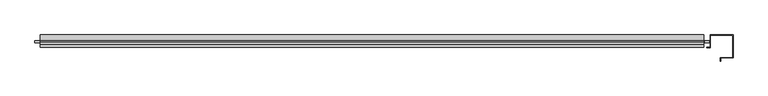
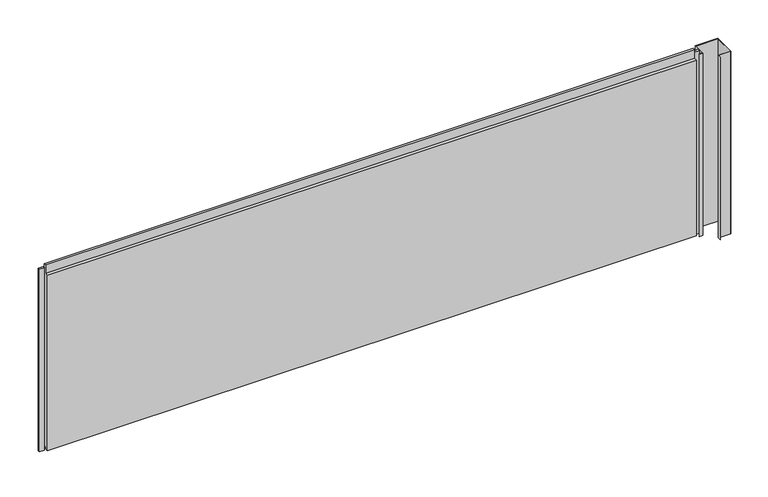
"""IFC4 building model written with IfcOpenShell, lengths in millimetres: plate geometry, Trimo_Qbiss Screen_Normal Panel-HORIZONTAL : HR - B."""

import ifcopenshell
import ifcopenshell.guid

model = None  # the IFC model being written
_history = None  # IfcOwnerHistory: only IFC2X3 demands one
_inside = {}  # id of a spatial element -> (the spatial element, [elements in it])
_under = {}  # id of a project, library or spatial element -> (it, [spatial elements below it])
_declared = {}  # id of a project -> (the project, [libraries it declares])
_typed = {}  # id of a type object -> (the type object, [elements of that type])
_made_of = {}  # id of a material, layer set ... -> (it, [elements and type objects made of it])


def new_model(schema):
    """Start an empty IFC model of exactly this schema.

    Asked for "IFC4X3", IfcOpenShell would pick the latest addendum, in which some entities
    have other attributes; the version numbers below select the first issue.
    IFC2X3 requires an IfcOwnerHistory on every rooted entity: one is made here for all.
    """
    global model, _history
    if schema == "IFC4X3":
        model = ifcopenshell.file(schema_version=(4, 3, 0, 0))
    else:
        model = ifcopenshell.file(schema=schema)
    _inside.clear()
    _under.clear()
    _declared.clear()
    _typed.clear()
    _made_of.clear()
    _history = None
    if model.schema == "IFC2X3":
        org = make("IfcOrganization", Name="unknown")
        user = make(
            "IfcPersonAndOrganization",
            ThePerson=make("IfcPerson", FamilyName="unknown"),
            TheOrganization=org,
        )
        app = make(
            "IfcApplication",
            ApplicationDeveloper=org,
            Version="unknown",
            ApplicationFullName="unknown",
            ApplicationIdentifier="unknown",
        )
        _history = make(
            "IfcOwnerHistory",
            OwningUser=user,
            OwningApplication=app,
            ChangeAction="ADDED",
            CreationDate=0,
        )
    return model


def make(cls, **values):
    """One entity of the class cls with the attributes given. An attribute that is None is left unset."""
    return model.create_entity(
        cls, **{name: value for name, value in values.items() if value is not None}
    )


def rooted(cls, **values):
    """An entity with a GlobalId (a new one), such as an element, a storey or a relation."""
    return make(cls, GlobalId=ifcopenshell.guid.new(), OwnerHistory=_history, **values)


def si_unit(unit_type, name, prefix=None):
    """IfcSIUnit, for example si_unit("LENGTHUNIT", "METRE", prefix="MILLI")."""
    return make("IfcSIUnit", UnitType=unit_type, Prefix=prefix, Name=name)


def assignment(units):
    """IfcUnitAssignment: the units of a project."""
    return None if units is None else make("IfcUnitAssignment", Units=units)


def point(xyz):
    """IfcCartesianPoint."""
    return None if xyz is None else make("IfcCartesianPoint", Coordinates=xyz)


def direction(xyz):
    """IfcDirection."""
    return None if xyz is None else make("IfcDirection", DirectionRatios=xyz)


def frame(location, z_axis=None, x_axis=None):
    """IfcAxis2Placement3D, a coordinate frame: its origin and axes. An axis left out is left unset."""
    return make(
        "IfcAxis2Placement3D",
        Location=point(location),
        Axis=direction(z_axis),
        RefDirection=direction(x_axis),
    )


def origin():
    """The frame at (0, 0, 0) with its axes left unset."""
    return frame((0.0, 0.0, 0.0))


def place(relative_to, where):
    """IfcLocalPlacement: puts the frame where relative to a parent placement (None: the world)."""
    return make(
        "IfcLocalPlacement", PlacementRelTo=relative_to, RelativePlacement=where
    )


def context(
    kind, dimensions, precision=None, world=None, true_north=None, identifier=None
):
    """IfcGeometricRepresentationContext, for example the 3D "Model" context."""
    return make(
        "IfcGeometricRepresentationContext",
        ContextIdentifier=identifier,
        ContextType=kind,
        CoordinateSpaceDimension=dimensions,
        Precision=precision,
        WorldCoordinateSystem=world,
        TrueNorth=true_north,
    )


def project(units=None, contexts=None):
    """IfcProject with its units and contexts."""
    return rooted(
        "IfcProject",
        Name="project",
        RepresentationContexts=contexts,
        UnitsInContext=assignment(units),
    )


def spatial(cls, under=None, at=None, **own):
    """A site, building, storey or space (cls), placed at a placement, below another one or the project."""
    s = rooted(cls, ObjectPlacement=at, **own)
    if under is not None:
        _under.setdefault(under.id(), (under, []))[1].append(s)
    return s


def polyline(points):
    """IfcPolyline through the points."""
    return make("IfcPolyline", Points=[point(p) for p in points])


def outline(outer, holes=None, kind="AREA"):
    """IfcArbitraryClosedProfileDef: a profile drawn as a closed curve; with holes, ...WithVoids."""
    if holes is None:
        return make("IfcArbitraryClosedProfileDef", ProfileType=kind, OuterCurve=outer)
    return make(
        "IfcArbitraryProfileDefWithVoids",
        ProfileType=kind,
        OuterCurve=outer,
        InnerCurves=holes,
    )


def extrude(swept, where, along, depth):
    """IfcExtrudedAreaSolid: the profile swept, set in the frame where, extruded along a direction by depth."""
    return make(
        "IfcExtrudedAreaSolid",
        SweptArea=swept,
        Position=where,
        ExtrudedDirection=direction(along),
        Depth=depth,
    )


def shape(context_of_items, identifier, shape_type, items):
    """IfcShapeRepresentation: the items that make up one representation, for example the "Body"."""
    return make(
        "IfcShapeRepresentation",
        ContextOfItems=context_of_items,
        RepresentationIdentifier=identifier,
        RepresentationType=shape_type,
        Items=items,
    )


def source(mapping_origin, context_of_items, identifier, shape_type, items):
    """IfcRepresentationMap: a shape defined once, which mapped items show again and again."""
    return make(
        "IfcRepresentationMap",
        MappingOrigin=mapping_origin,
        MappedRepresentation=shape(context_of_items, identifier, shape_type, items),
    )


def transform(
    local_origin,
    x_axis=None,
    y_axis=None,
    z_axis=None,
    scale=None,
    scale2=None,
    scale3=None,
    uniform=True,
):
    """IfcCartesianTransformationOperator3D, or its non-uniform kind. x_axis, y_axis, z_axis: its Axis1, 2, 3."""
    if uniform:
        return make(
            "IfcCartesianTransformationOperator3D",
            Axis1=direction(x_axis),
            Axis2=direction(y_axis),
            LocalOrigin=point(local_origin),
            Scale=scale,
            Axis3=direction(z_axis),
        )
    return make(
        "IfcCartesianTransformationOperator3DnonUniform",
        Axis1=direction(x_axis),
        Axis2=direction(y_axis),
        LocalOrigin=point(local_origin),
        Scale=scale,
        Axis3=direction(z_axis),
        Scale2=scale2,
        Scale3=scale3,
    )


def mapped(mapping_source, mapping_target):
    """IfcMappedItem: shows the shape of a source again, moved by a transform."""
    return make(
        "IfcMappedItem", MappingSource=mapping_source, MappingTarget=mapping_target
    )


def made_of(thing, what):
    """Note that an element or type object is made of a material, layer set ...; save() writes the relation."""
    if what is not None:
        _made_of.setdefault(what.id(), (what, []))[1].append(thing)
    return thing


def element(
    cls,
    number,
    at=None,
    inside=None,
    cuts=None,
    type_object=None,
    material=None,
    context=None,
    identifier="Body",
    shape_type=None,
    held_by="IfcProductDefinitionShape",
    body=None,
    shapes=None,
    **own,
):
    """One element of the class cls, such as IfcWall. Its Tag is "e" and its number.

    at: its placement. inside: the storey or other place that contains it. cuts: it is an
    opening in that element (IfcRelVoidsElement). A single representation is given by context,
    identifier, shape_type and body (its items); several are given by shapes. held_by: the class
    of the entity that holds the representations. save() writes the other relations.
    """
    e = rooted(cls, Tag="e%d" % number, ObjectPlacement=at, **own)
    if body is not None:
        shapes = [shape(context, identifier, shape_type, body)]
    if shapes is not None:
        e.Representation = make(held_by, Representations=shapes)
    if inside is not None:
        _inside.setdefault(inside.id(), (inside, []))[1].append(e)
    if cuts is not None:
        rooted(
            "IfcRelVoidsElement", RelatingBuildingElement=cuts, RelatedOpeningElement=e
        )
    if type_object is not None:
        _typed.setdefault(type_object.id(), (type_object, []))[1].append(e)
    return made_of(e, material)


def aggregate(whole, parts):
    """IfcRelAggregates: a whole, such as a stair, and the parts it consists of."""
    return rooted("IfcRelAggregates", RelatingObject=whole, RelatedObjects=parts)


def save(model, path):
    """Write the relations noted so far, then the file.

    IfcRelAggregates (storeys below a building ...), IfcRelContainedInSpatialStructure (elements
    in a storey), IfcRelDefinesByType, IfcRelAssociatesMaterial and IfcRelDeclares: one each for
    every whole, place, type object, material and project.
    """
    for whole, parts in _under.values():
        aggregate(whole, parts)
    for where, things in _inside.values():
        rooted(
            "IfcRelContainedInSpatialStructure",
            RelatedElements=things,
            RelatingStructure=where,
        )
    for kind, things in _typed.values():
        rooted("IfcRelDefinesByType", RelatedObjects=things, RelatingType=kind)
    for what, things in _made_of.values():
        rooted("IfcRelAssociatesMaterial", RelatedObjects=things, RelatingMaterial=what)
    for by, libraries in _declared.values():
        rooted("IfcRelDeclares", RelatingContext=by, RelatedDefinitions=libraries)
    model.write(path)


def plate_ed5daf5d(model_context):
    return source(origin(), model_context, "Body", "SweptSolid", [
        extrude(outline(polyline([(-1331.75, 76.5978162), (-1331.75, 67.8978162), (-1350.75, 67.8978162), (-1350.75, 76.5978162), (-1331.75, 76.5978162)])), frame((0.0, 0.0, -1.0), z_axis=(0.0, 0.0, 1.0), x_axis=(1.0, 0.0, 0.0)), (0.0, 0.0, 1.0), 787.95),
        extrude(outline(polyline([(1327.25, 67.8978162), (1327.25, 76.5978162), (1346.25, 76.5978162), (1346.25, 67.8978162), (1327.25, 67.8978162)])), frame((0.0, 0.0, -1.0), z_axis=(0.0, 0.0, 1.0), x_axis=(1.0, 0.0, 0.0)), (0.0, 0.0, 1.0), 787.95),
        extrude(outline(polyline([(1324.25, 76.0), (1324.25, 71.0), (-1328.75, 71.0), (-1328.75, 76.0), (1324.25, 76.0)])), frame((0.0, 0.0, 765.95), z_axis=(0.0, 0.0, 1.0), x_axis=(1.0, 0.0, 0.0)), (0.0, 0.0, 1.0), 21.0),
        extrude(outline(polyline([(71.0, 764.95), (100.0, 764.95), (100.0, 0.0), (72.0, 0.0), (72.0, 15.5), (62.0, 15.5), (62.0, 7.0), (50.0, 7.0), (50.0, 764.95), (63.0, 764.95), (63.0, 802.45), (71.0, 802.45), (71.0, 764.95)])), frame((-1328.75, 0.0, 0.0), z_axis=(1.0, 0.0, 0.0), x_axis=(0.0, 1.0, 0.0)), (0.0, 0.0, 1.0), 2653.0),
        extrude(outline(polyline([(1349.25, 50.0), (1349.25, 100.0), (1441.25, 100.0), (1441.25, 8.0), (1391.25, 8.0), (1391.25, -4.5), (1390.45, -4.5), (1390.45, 8.8), (1440.45, 8.8), (1440.45, 99.2), (1350.05, 99.2), (1350.05, 49.1823429), (1336.75, 49.1823429), (1336.75, 50.0), (1349.25, 50.0)])), frame((0.0, 0.0, -1.0), z_axis=(0.0, 0.0, 1.0), x_axis=(1.0, 0.0, 0.0)), (0.0, 0.0, 1.0), 787.95),
    ])


if __name__ == "__main__":
    model = new_model("IFC4")
    model_context = context("Model", 3, world=origin())
    ifc_project = project(units=[si_unit("LENGTHUNIT", "METRE", prefix="MILLI")], contexts=[model_context])
    site = spatial("IfcSite", under=ifc_project)
    building = spatial("IfcBuilding", under=site)
    placement = place(None, origin())
    plate_shape = plate_ed5daf5d(model_context)
    element("IfcPlate", 1, ObjectType="Trimo_Qbiss Screen_Normal Panel-HORIZONTAL : HR - B", at=placement, inside=building, context=model_context, shape_type="MappedRepresentation", body=[
        mapped(plate_shape, transform((0.0, 0.0, 0.0), x_axis=(1.0, 0.0, 0.0), y_axis=(0.0, 1.0, 0.0), z_axis=(0.0, 0.0, 1.0))),
    ])
    save(model, "model.ifc")
